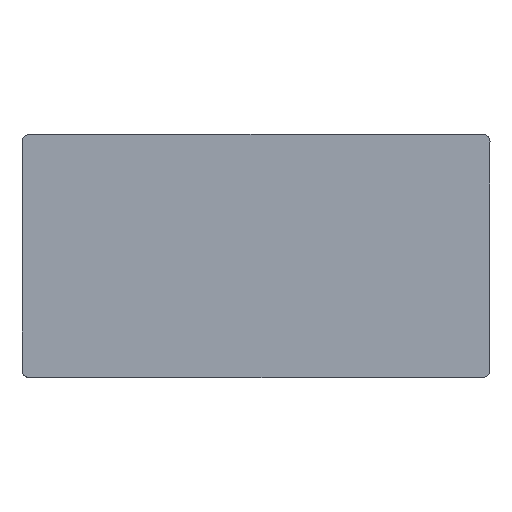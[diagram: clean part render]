
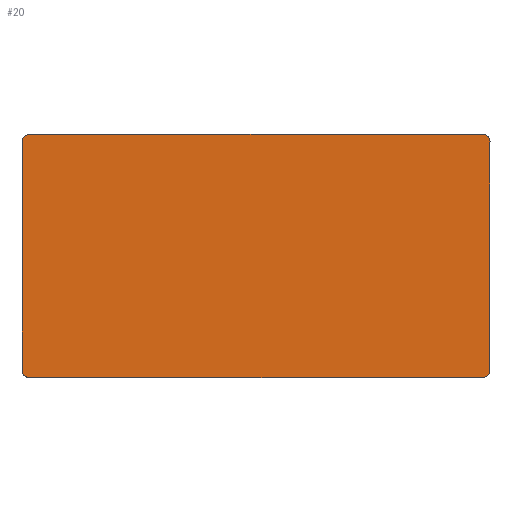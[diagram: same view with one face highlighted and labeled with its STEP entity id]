
A CAD part, top view. The second image highlights one B-rep face of the part: STEP entity #20.
In plain terms, the highlighted planar face has unit normal (0, 0, 1).
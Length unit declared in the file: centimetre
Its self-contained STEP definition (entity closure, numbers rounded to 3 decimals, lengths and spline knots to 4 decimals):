
#20=ADVANCED_FACE($,(#38),#217,.T.);
#38=FACE_OUTER_BOUND($,#56,.T.);
#56=EDGE_LOOP($,(#78,#79));
#78=ORIENTED_EDGE($,*,*,#146,.T.);
#79=ORIENTED_EDGE($,*,*,#149,.T.);
#146=EDGE_CURVE($,#181,#183,#225,.T.);
#149=EDGE_CURVE($,#183,#181,#227,.T.);
#181=VERTEX_POINT($,#443);
#183=VERTEX_POINT($,#445);
#217=PLANE($,#347);
#225=(
BOUNDED_CURVE()
B_SPLINE_CURVE(2,(#375,#376,#377,#378,#379,#380,#381,#382,#383),.UNSPECIFIED.,
.F.,.F.)
B_SPLINE_CURVE_WITH_KNOTS((3,2,2,2,3),(1882.8319,1914.2478,
2524.2478,2555.6637,3765.6637),.UNSPECIFIED.)
CURVE()
GEOMETRIC_REPRESENTATION_ITEM()
RATIONAL_B_SPLINE_CURVE((1.,0.707,1.,1.,1.,0.707,
1.,1.,1.))
REPRESENTATION_ITEM($)
);
#227=(
BOUNDED_CURVE()
B_SPLINE_CURVE(2,(#395,#396,#397,#398,#399,#400,#401,#402,#403),.UNSPECIFIED.,
.F.,.F.)
B_SPLINE_CURVE_WITH_KNOTS((3,2,2,2,3),(3765.6637,3797.0796,
4407.0796,4438.4956,5648.4956),.UNSPECIFIED.)
CURVE()
GEOMETRIC_REPRESENTATION_ITEM()
RATIONAL_B_SPLINE_CURVE((1.,0.707,1.,1.,1.,0.707,
1.,1.,1.))
REPRESENTATION_ITEM($)
);
#347=AXIS2_PLACEMENT_3D($,#423,#356,$);
#356=DIRECTION($,(0.,0.,1.));
#375=CARTESIAN_POINT($,(124.9687,0.1322,41.7));
#376=CARTESIAN_POINT($,(126.9687,0.1322,41.7));
#377=CARTESIAN_POINT($,(126.9687,2.1322,41.7));
#378=CARTESIAN_POINT($,(126.9687,32.6322,41.7));
#379=CARTESIAN_POINT($,(126.9687,63.1322,41.7));
#380=CARTESIAN_POINT($,(126.9687,65.1322,41.7));
#381=CARTESIAN_POINT($,(124.9687,65.1322,41.7));
#382=CARTESIAN_POINT($,(64.4687,65.1322,41.7));
#383=CARTESIAN_POINT($,(3.9687,65.1322,41.7));
#395=CARTESIAN_POINT($,(3.9687,65.1322,41.7));
#396=CARTESIAN_POINT($,(1.9687,65.1322,41.7));
#397=CARTESIAN_POINT($,(1.9687,63.1322,41.7));
#398=CARTESIAN_POINT($,(1.9687,32.6322,41.7));
#399=CARTESIAN_POINT($,(1.9687,2.1322,41.7));
#400=CARTESIAN_POINT($,(1.9687,0.1322,41.7));
#401=CARTESIAN_POINT($,(3.9687,0.1322,41.7));
#402=CARTESIAN_POINT($,(64.4687,0.1322,41.7));
#403=CARTESIAN_POINT($,(124.9687,0.1322,41.7));
#423=CARTESIAN_POINT($,(1.9687,0.1322,41.7));
#443=CARTESIAN_POINT($,(124.9687,0.1322,41.7));
#445=CARTESIAN_POINT($,(3.9687,65.1322,41.7));
